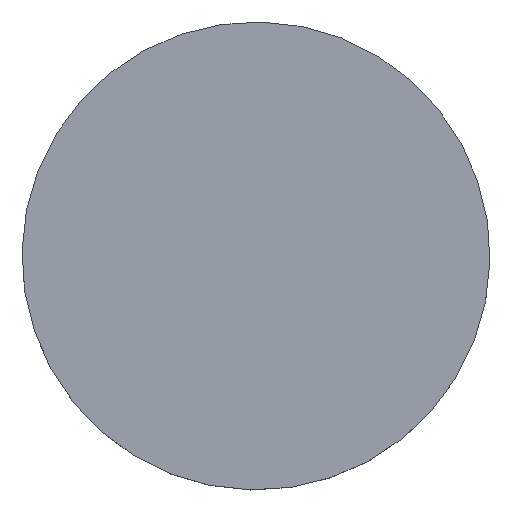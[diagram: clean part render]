
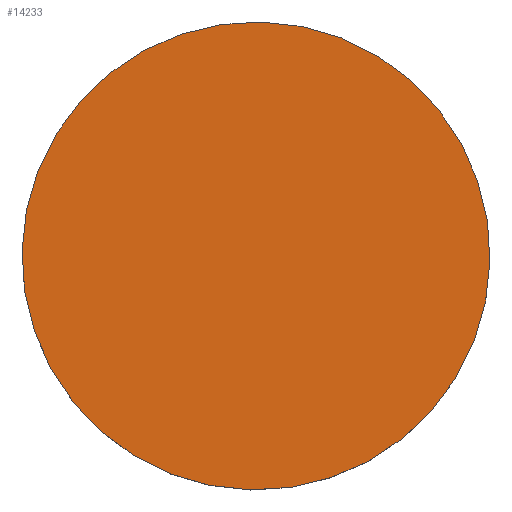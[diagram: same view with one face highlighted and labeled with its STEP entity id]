
A CAD part, top view. The second image highlights one B-rep face of the part: STEP entity #14233.
In plain terms, the highlighted planar face has unit normal (0, 0, 1).
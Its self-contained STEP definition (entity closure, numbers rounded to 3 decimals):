
#14210=CARTESIAN_POINT('Axis2P3D Location',(0.,0.,6.)) ;
#14215=CARTESIAN_POINT('Axis2P3D Location',(0.,0.,6.)) ;
#14219=CARTESIAN_POINT('Vertex',(10.188,-18.649,6.)) ;
#14221=CARTESIAN_POINT('Vertex',(-10.188,18.649,6.)) ;
#14224=CARTESIAN_POINT('Axis2P3D Location',(0.,0.,6.)) ;
#14211=DIRECTION('Axis2P3D Direction',(0.,0.,1.)) ;
#14212=DIRECTION('Axis2P3D XDirection',(1.,0.,0.)) ;
#14216=DIRECTION('Axis2P3D Direction',(0.,0.,1.)) ;
#14225=DIRECTION('Axis2P3D Direction',(0.,0.,1.)) ;
#14213=AXIS2_PLACEMENT_3D('Plane Axis2P3D',#14210,#14211,#14212) ;
#14217=AXIS2_PLACEMENT_3D('Circle Axis2P3D',#14215,#14216,$) ;
#14226=AXIS2_PLACEMENT_3D('Circle Axis2P3D',#14224,#14225,$) ;
#14230=ORIENTED_EDGE('',*,*,#14223,.T.) ;
#14231=ORIENTED_EDGE('',*,*,#14228,.T.) ;
#14233=ADVANCED_FACE('PartBody',(#14232),#14214,.T.) ;
#14218=CIRCLE('generated circle',#14217,21.25) ;
#14227=CIRCLE('generated circle',#14226,21.25) ;
#14223=EDGE_CURVE('',#14220,#14222,#14218,.T.) ;
#14228=EDGE_CURVE('',#14222,#14220,#14227,.T.) ;
#14229=EDGE_LOOP('',(#14230,#14231)) ;
#14232=FACE_OUTER_BOUND('',#14229,.T.) ;
#14214=PLANE('',#14213) ;
#14220=VERTEX_POINT('',#14219) ;
#14222=VERTEX_POINT('',#14221) ;
